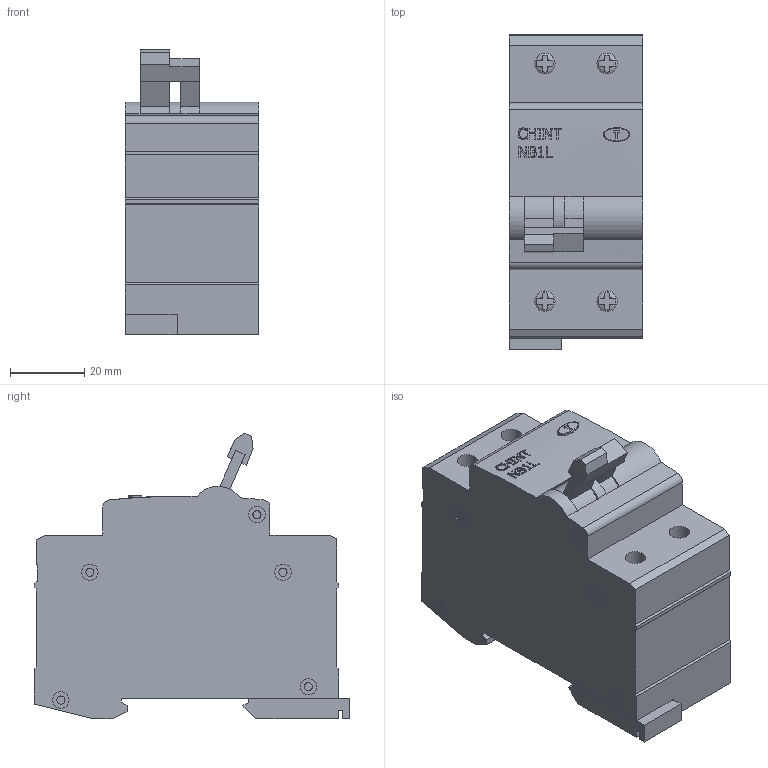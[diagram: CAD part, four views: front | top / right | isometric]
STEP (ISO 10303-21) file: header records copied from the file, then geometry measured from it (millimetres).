
FILE_DESCRIPTION(/* description */ (''),/* implementation_level */ '2;1');
FILE_NAME(/* name */ 'D:\CHINT\NB1L\Диф. автомат NB1L 1P+N B6 30mA тип AC 10kA (36mm) (R) (CHINT).stp',/* time_stamp */ '2017-09-24T19:08:52+04:00',/* author */ ('RSagdiev'),/* organization */ (''),/* preprocessor_version */ 'ST-DEVELOPER v16.5',/* originating_system */ 'Autodesk Inventor 2017',/* authorisation */ '');
FILE_SCHEMA (('AUTOMOTIVE_DESIGN { 1 0 10303 214 3 1 1 }'));
Length unit declared in the file: millimetre
Products named in the file (1): Диф. автомат NB1L 1P+N 
B6 30mA тип AC 10kA (36mm) (R) (CHINT)
Bounding box: 36 x 85 x 76.99 mm (x, y, z)
Volume: 153929.6 mm3; surface area: 23731 mm2
Topology: 10 solids, 10 shells, 343 faces, 848 edges, 564 vertices
Faces by surface type: plane 257, cylinder 48, bspline 38
Full cylindrical faces by diameter (mm): 2.1 x2, 2.2 x10, 4.4 x10, 5.5 x4
Entity records: 11012 total; most frequent: CARTESIAN_POINT 3014, ORIENTED_EDGE 1644, DIRECTION 1537, EDGE_CURVE 822, VERTEX_POINT 564, LINE 513, VECTOR 513, AXIS2_PLACEMENT_3D 512
